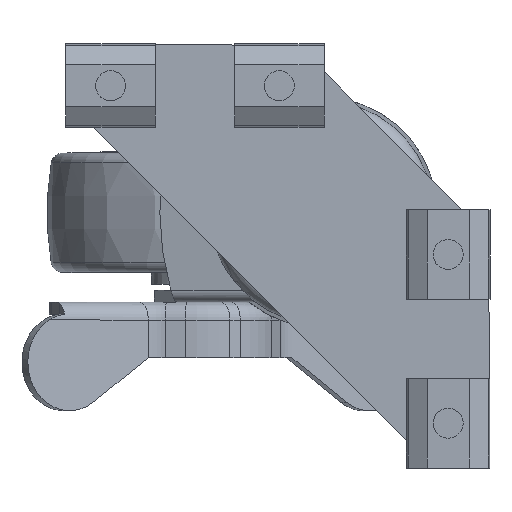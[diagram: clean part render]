
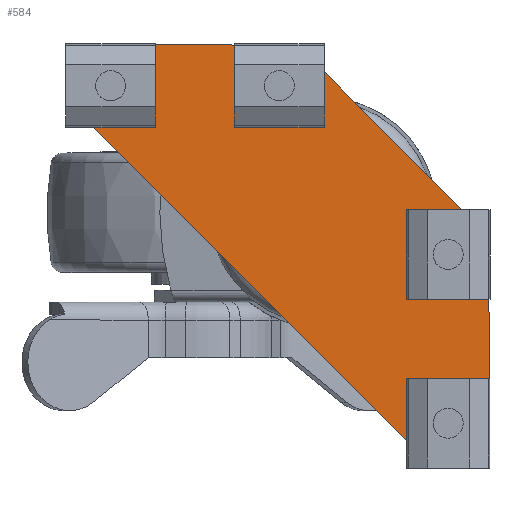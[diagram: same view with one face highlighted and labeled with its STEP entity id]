
A CAD part, top view. The second image highlights one B-rep face of the part: STEP entity #584.
In plain terms, the highlighted planar face has unit normal (0, 0, 1).
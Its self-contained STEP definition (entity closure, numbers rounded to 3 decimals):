
#584=ADVANCED_FACE('',(#1173,#1174,#1175,#1176,#1177),#1178,.T.);
#1173=FACE_BOUND('',#1897,.T.);
#1174=FACE_BOUND('',#1898,.T.);
#1175=FACE_BOUND('',#1899,.T.);
#1176=FACE_BOUND('',#1900,.T.);
#1177=FACE_OUTER_BOUND('',#1901,.T.);
#1178=PLANE('',#1902);
#1897=EDGE_LOOP('',(#2967));
#1898=EDGE_LOOP('',(#2968));
#1899=EDGE_LOOP('',(#2969));
#1900=EDGE_LOOP('',(#2970));
#1901=EDGE_LOOP('',(#2971,#2972,#2973,#2974,#2975,#2976,#2977,#2978));
#1902=AXIS2_PLACEMENT_3D('',#2979,#2980,#2981);
#2967=ORIENTED_EDGE('',*,*,#4466,.T.);
#2968=ORIENTED_EDGE('',*,*,#4467,.T.);
#2969=ORIENTED_EDGE('',*,*,#4188,.T.);
#2970=ORIENTED_EDGE('',*,*,#4468,.T.);
#2971=ORIENTED_EDGE('',*,*,#4469,.T.);
#2972=ORIENTED_EDGE('',*,*,#4284,.T.);
#2973=ORIENTED_EDGE('',*,*,#4470,.T.);
#2974=ORIENTED_EDGE('',*,*,#4237,.T.);
#2975=ORIENTED_EDGE('',*,*,#4233,.T.);
#2976=ORIENTED_EDGE('',*,*,#4471,.T.);
#2977=ORIENTED_EDGE('',*,*,#4340,.T.);
#2978=ORIENTED_EDGE('',*,*,#4442,.T.);
#2979=CARTESIAN_POINT('',(28.0,26.954,2.3));
#2980=DIRECTION('',(0.0,0.0,1.0));
#2981=DIRECTION('',(1.0,0.0,0.0));
#4188=EDGE_CURVE('',#4855,#4855,#4856,.T.);
#4233=EDGE_CURVE('',#4935,#4933,#4936,.T.);
#4237=EDGE_CURVE('',#4941,#4935,#4942,.T.);
#4284=EDGE_CURVE('',#5023,#5021,#5024,.T.);
#4340=EDGE_CURVE('',#5119,#5117,#5120,.T.);
#4442=EDGE_CURVE('',#5117,#5284,#5286,.T.);
#4466=EDGE_CURVE('',#5324,#5324,#5325,.T.);
#4467=EDGE_CURVE('',#5326,#5326,#5327,.T.);
#4468=EDGE_CURVE('',#5328,#5328,#5329,.T.);
#4469=EDGE_CURVE('',#5284,#5023,#5330,.T.);
#4470=EDGE_CURVE('',#5021,#4941,#5331,.T.);
#4471=EDGE_CURVE('',#4933,#5119,#5332,.T.);
#4855=VERTEX_POINT('',#5826);
#4856=CIRCLE('',#5827,2.6);
#4933=VERTEX_POINT('',#5935);
#4935=VERTEX_POINT('',#5938);
#4936=LINE('',#5939,#5940);
#4941=VERTEX_POINT('',#5946);
#4942=CIRCLE('',#5947,6.0);
#5021=VERTEX_POINT('',#6045);
#5023=VERTEX_POINT('',#6048);
#5024=CIRCLE('',#6049,6.0);
#5117=VERTEX_POINT('',#6229);
#5119=VERTEX_POINT('',#6232);
#5120=LINE('',#6233,#6234);
#5284=VERTEX_POINT('',#6451);
#5286=CIRCLE('',#6454,7.0);
#5324=VERTEX_POINT('',#6503);
#5325=CIRCLE('',#6504,2.6);
#5326=VERTEX_POINT('',#6505);
#5327=CIRCLE('',#6506,2.6);
#5328=VERTEX_POINT('',#6507);
#5329=CIRCLE('',#6508,2.6);
#5330=LINE('',#6509,#6510);
#5331=LINE('',#6511,#6512);
#5332=CIRCLE('',#6513,7.0);
#5826=CARTESIAN_POINT('',(4.4,87.0,2.3));
#5827=AXIS2_PLACEMENT_3D('',#7275,#7276,#7277);
#5935=CARTESIAN_POINT('',(11.994,91.905,2.3));
#5938=CARTESIAN_POINT('',(32.281,71.251,2.3));
#5939=CARTESIAN_POINT('',(32.281,71.251,2.3));
#5940=VECTOR('',#7337,1.0);
#5946=CARTESIAN_POINT('',(34.0,67.046,2.3));
#5947=AXIS2_PLACEMENT_3D('',#7342,#7343,#7344);
#6045=CARTESIAN_POINT('',(34.0,26.954,2.3));
#6048=CARTESIAN_POINT('',(32.281,22.749,2.3));
#6049=AXIS2_PLACEMENT_3D('',#7410,#7411,#7412);
#6229=CARTESIAN_POINT('',(0.,7.,2.3));
#6232=CARTESIAN_POINT('',(0.,87.,2.3));
#6233=CARTESIAN_POINT('',(0.,87.,2.3));
#6234=VECTOR('',#7482,1.0);
#6451=CARTESIAN_POINT('',(11.994,2.095,2.3));
#6454=AXIS2_PLACEMENT_3D('',#7616,#7617,#7618);
#6503=CARTESIAN_POINT('',(24.4,27.0,2.3));
#6504=AXIS2_PLACEMENT_3D('',#7654,#7655,#7656);
#6505=CARTESIAN_POINT('',(4.4,7.,2.3));
#6506=AXIS2_PLACEMENT_3D('',#7657,#7658,#7659);
#6507=CARTESIAN_POINT('',(24.4,67.0,2.3));
#6508=AXIS2_PLACEMENT_3D('',#7660,#7661,#7662);
#6509=CARTESIAN_POINT('',(11.994,2.095,2.3));
#6510=VECTOR('',#7663,1.0);
#6511=CARTESIAN_POINT('',(34.0,26.954,2.3));
#6512=VECTOR('',#7664,1.0);
#6513=AXIS2_PLACEMENT_3D('',#7665,#7666,#7667);
#7275=CARTESIAN_POINT('',(7.0,87.0,2.3));
#7276=DIRECTION('',(0.0,0.0,-1.0));
#7277=DIRECTION('',(-1.0,0.0,0.0));
#7337=DIRECTION('',(-0.701,0.713,0.0));
#7342=CARTESIAN_POINT('',(28.0,67.046,2.3));
#7343=DIRECTION('',(0.0,0.0,1.0));
#7344=DIRECTION('',(1.0,0.0,0.0));
#7410=CARTESIAN_POINT('',(28.0,26.954,2.3));
#7411=DIRECTION('',(0.0,0.0,1.0));
#7412=DIRECTION('',(1.0,0.0,0.0));
#7482=DIRECTION('',(0.0,-1.0,0.0));
#7616=CARTESIAN_POINT('',(7.0,7.,2.3));
#7617=DIRECTION('',(0.0,0.0,1.0));
#7618=DIRECTION('',(1.0,0.0,0.0));
#7654=CARTESIAN_POINT('',(27.0,27.0,2.3));
#7655=DIRECTION('',(0.0,0.0,-1.0));
#7656=DIRECTION('',(-1.0,0.0,0.0));
#7657=CARTESIAN_POINT('',(7.0,7.,2.3));
#7658=DIRECTION('',(0.0,0.0,-1.0));
#7659=DIRECTION('',(-1.0,0.0,0.0));
#7660=CARTESIAN_POINT('',(27.0,67.0,2.3));
#7661=DIRECTION('',(0.0,0.0,-1.0));
#7662=DIRECTION('',(-1.0,0.0,0.0));
#7663=DIRECTION('',(0.701,0.713,0.0));
#7664=DIRECTION('',(0.0,1.0,0.0));
#7665=CARTESIAN_POINT('',(7.0,87.0,2.3));
#7666=DIRECTION('',(0.0,0.0,1.0));
#7667=DIRECTION('',(1.0,0.0,0.0));
